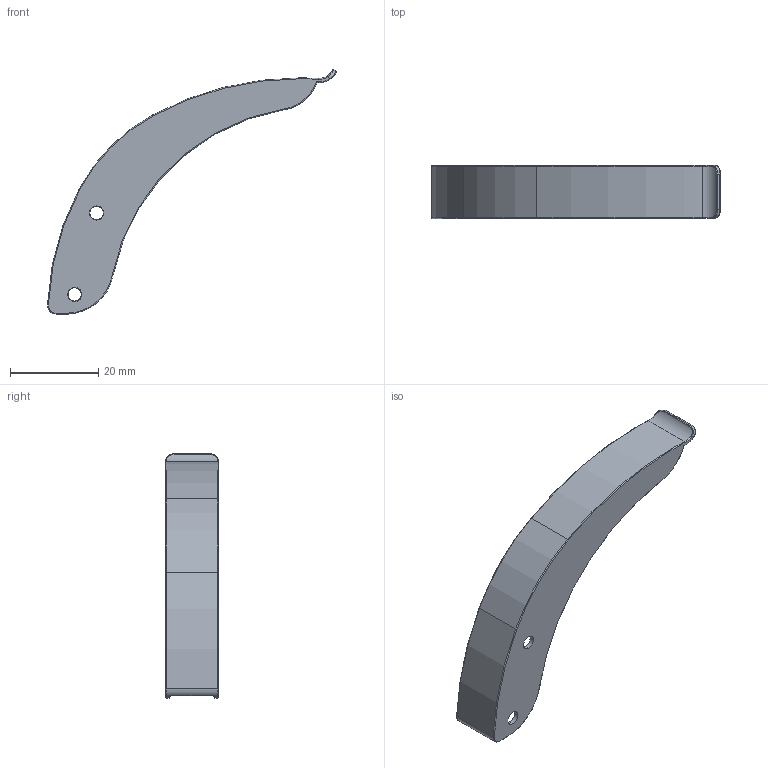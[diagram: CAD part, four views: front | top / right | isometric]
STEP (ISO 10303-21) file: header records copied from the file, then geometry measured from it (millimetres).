
FILE_DESCRIPTION (( 'STEP AP214' ), '1' );
FILE_NAME ('P-01009 - Snap Ring Handle rev2 - v2.1.2_Final Clamp Dimension.STEP', '2026-06-12T21:56:24', ( '' ), ( '' ), 'SwSTEP 2.0', 'SolidWorks 2023', '' );
FILE_SCHEMA (( 'AUTOMOTIVE_DESIGN' ));
Length unit declared in the file: inch
Products named in the file (1): P-01009 - Snap Ring Handle rev2 - v2.1.2_Final Clamp Dimension
Bounding box: 65.58 x 12 x 55.46 mm (x, y, z)
Volume: 2777.1 mm3; surface area: 5742 mm2
Topology: 1 solids, 1 shells, 95 faces, 227 edges, 132 vertices
Faces by surface type: cylinder 39, torus 38, bspline 8, plane 8, sphere 2
Entity records: 3325 total; most frequent: CARTESIAN_POINT 1048, DIRECTION 533, ORIENTED_EDGE 450, AXIS2_PLACEMENT_3D 240, EDGE_CURVE 225, CIRCLE 152, VERTEX_POINT 132, EDGE_LOOP 103
